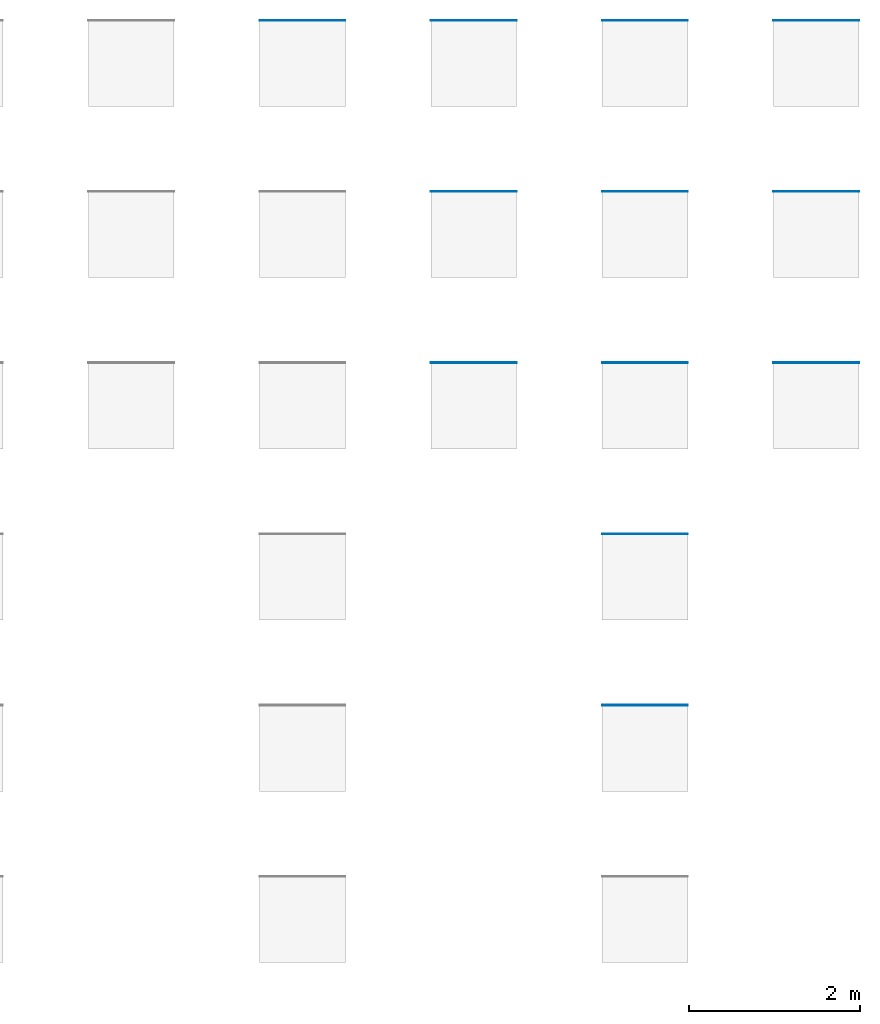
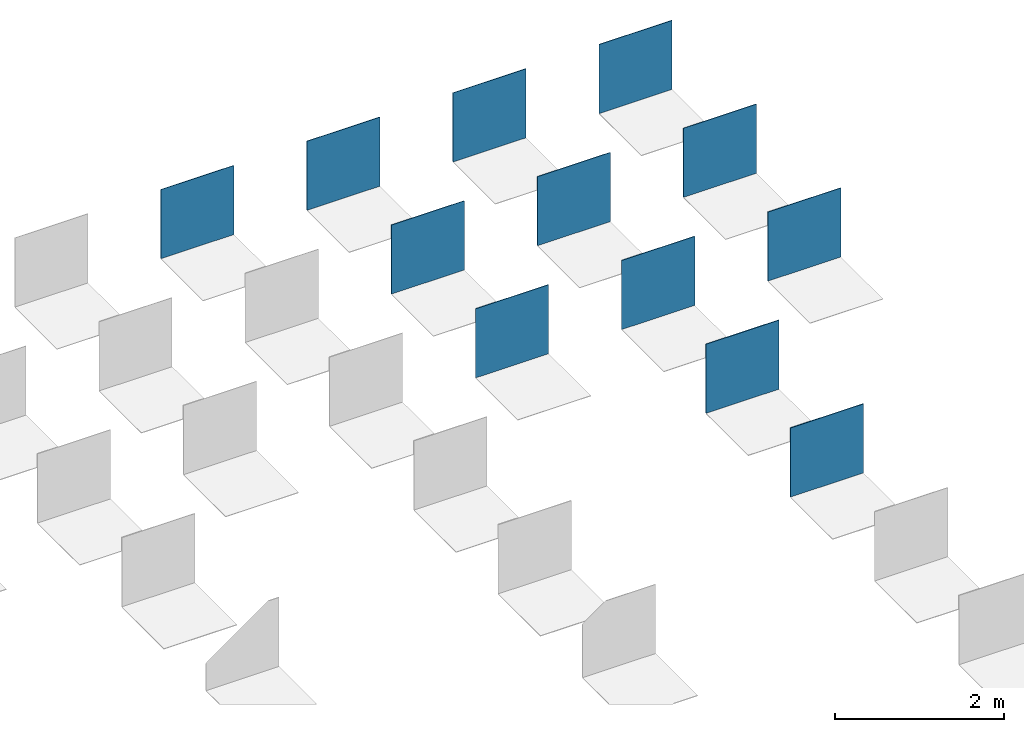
# One storey, part 3 of 6: 12 walls.
"""IFC2X3 building model written with IfcOpenShell, lengths in millimetres."""

from ifc_helpers import new_model, entity, si_unit, converted_unit, derived_unit, direction, frame, frame_2d, origin, place, context, subcontext, project, spatial, rectangle, extrude, material, layer, layer_set, layer_usage, type_object, element, save


model = new_model("IFC2X3")

# Units and contexts
model_context = context("Model", 3, precision=0.01, world=origin(), true_north=direction((6.12303176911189e-17, 1.0)))
body_context = subcontext(model_context, "Body", "Model", "MODEL_VIEW")
ifc_project = project(units=[si_unit("LENGTHUNIT", "METRE", prefix="MILLI"), si_unit("AREAUNIT", "SQUARE_METRE"), si_unit("VOLUMEUNIT", "CUBIC_METRE"), converted_unit("PLANEANGLEUNIT", "DEGREE", entity("IfcRatioMeasure", 0.0174532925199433), si_unit("PLANEANGLEUNIT", "RADIAN"), dimensions=[0, 0, 0, 0, 0, 0, 0]), si_unit("MASSUNIT", "GRAM", prefix="KILO"), derived_unit("MASSDENSITYUNIT", [(si_unit("MASSUNIT", "GRAM", prefix="KILO"), 1), (si_unit("LENGTHUNIT", "METRE"), -3)]), derived_unit("MOMENTOFINERTIAUNIT", [(si_unit("LENGTHUNIT", "METRE"), 4)]), si_unit("TIMEUNIT", "SECOND"), si_unit("FREQUENCYUNIT", "HERTZ"), si_unit("THERMODYNAMICTEMPERATUREUNIT", "DEGREE_CELSIUS"), derived_unit("THERMALTRANSMITTANCEUNIT", [(si_unit("MASSUNIT", "GRAM", prefix="KILO"), 1), (si_unit("THERMODYNAMICTEMPERATUREUNIT", "KELVIN"), -1), (si_unit("TIMEUNIT", "SECOND"), -3)]), derived_unit("VOLUMETRICFLOWRATEUNIT", [(si_unit("LENGTHUNIT", "METRE"), 3), (si_unit("TIMEUNIT", "SECOND"), -1)]), si_unit("ELECTRICCURRENTUNIT", "AMPERE"), si_unit("ELECTRICVOLTAGEUNIT", "VOLT"), si_unit("POWERUNIT", "WATT"), si_unit("FORCEUNIT", "NEWTON", prefix="KILO"), si_unit("ILLUMINANCEUNIT", "LUX"), si_unit("LUMINOUSFLUXUNIT", "LUMEN"), si_unit("LUMINOUSINTENSITYUNIT", "CANDELA"), derived_unit("USERDEFINED", [(si_unit("MASSUNIT", "GRAM", prefix="KILO"), -1), (si_unit("LENGTHUNIT", "METRE"), -2), (si_unit("TIMEUNIT", "SECOND"), 3), (si_unit("LUMINOUSFLUXUNIT", "LUMEN"), 1)]), derived_unit("LINEARVELOCITYUNIT", [(si_unit("LENGTHUNIT", "METRE"), 1), (si_unit("TIMEUNIT", "SECOND"), -1)]), si_unit("PRESSUREUNIT", "PASCAL"), derived_unit("USERDEFINED", [(si_unit("LENGTHUNIT", "METRE"), -2), (si_unit("MASSUNIT", "GRAM", prefix="KILO"), 1), (si_unit("TIMEUNIT", "SECOND"), -2)]), derived_unit("LINEARFORCEUNIT", [(si_unit("MASSUNIT", "GRAM", prefix="KILO"), 1), (si_unit("LENGTHUNIT", "METRE"), 1), (si_unit("TIMEUNIT", "SECOND"), -2), (si_unit("LENGTHUNIT", "METRE"), -1)]), derived_unit("PLANARFORCEUNIT", [(si_unit("MASSUNIT", "GRAM", prefix="KILO"), 1), (si_unit("LENGTHUNIT", "METRE"), 1), (si_unit("TIMEUNIT", "SECOND"), -2), (si_unit("LENGTHUNIT", "METRE"), -2)])], contexts=[model_context])

# Site, building, storey
site_placement = place(None, origin())
site = spatial("IfcSite", under=ifc_project, at=site_placement, Name="Default", CompositionType="ELEMENT")
building_placement = place(site_placement, origin())
building = spatial("IfcBuilding", under=site, at=building_placement, CompositionType="ELEMENT")
storey_placement = place(building_placement, origin())
storey = spatial("IfcBuildingStorey", under=building, at=storey_placement, Name="Level 1", CompositionType="ELEMENT", Elevation=0.0)

# Walls
ifc_material_1 = material(Name="REVIGRÉS-URBAN-BASE-30X30-RECT-GRIS")
ifc_layer_1 = layer(ifc_material_1, 7.7)
ifc_layer_set_1 = layer_set([ifc_layer_1], Name="Basic Wall:REVIGRÉS-URBAN-BASE-29,5X29,5-RECT-GRIS")
ifc_layer_usage_1 = layer_usage(ifc_layer_set_1, "AXIS2", "POSITIVE", -3.85)
wall_type_1 = type_object("IfcWallType", Name="Basic Wall:REVIGRÉS-URBAN-BASE-29,5X29,5-RECT-GRIS", PredefinedType="STANDARD", material=ifc_layer_set_1)
wall_1_placement = place(storey_placement, frame((18778.6427139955, -1188.07420263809, 0.0)))
element("IfcWallStandardCase", 1, at=wall_1_placement, inside=storey, type_object=wall_type_1, material=ifc_layer_usage_1, Name="Basic Wall:REVIGRÉS-URBAN-BASE-29,5X29,5-RECT-GRIS", ObjectType="Basic Wall:REVIGRÉS-URBAN-BASE-29,5X29,5-RECT-GRIS", context=body_context, shape_type="SweptSolid", body=[
    extrude(rectangle(XDim=1000.0, YDim=7.69999999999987, at=frame_2d((500.0, 0.0), x_axis=(-1.0, 0.0))), origin(), (0.0, 0.0, 1.0), 1000.0),
])
ifc_material_2 = material(Name="REVIGRÉS-URBAN-BASE-30X30-NAT-GRIS")
ifc_layer_2 = layer(ifc_material_2, 8.5)
ifc_layer_set_2 = layer_set([ifc_layer_2], Name="Basic Wall:REVIGRÉS-URBAN-BASE-30X30-NAT-GRIS")
ifc_layer_usage_2 = layer_usage(ifc_layer_set_2, "AXIS2", "POSITIVE", -4.25)
wall_type_2 = type_object("IfcWallType", Name="Basic Wall:REVIGRÉS-URBAN-BASE-30X30-NAT-GRIS", PredefinedType="STANDARD", material=ifc_layer_set_2)
wall_2_placement = place(storey_placement, frame((20778.6427139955, -1187.67420263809, 0.0)))
element("IfcWallStandardCase", 2, at=wall_2_placement, inside=storey, type_object=wall_type_2, material=ifc_layer_usage_2, Name="Basic Wall:REVIGRÉS-URBAN-BASE-30X30-NAT-GRIS", ObjectType="Basic Wall:REVIGRÉS-URBAN-BASE-30X30-NAT-GRIS", context=body_context, shape_type="SweptSolid", body=[
    extrude(rectangle(XDim=1000.0, YDim=8.49999999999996, at=frame_2d((500.000000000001, 0.0), x_axis=(-1.0, 0.0))), origin(), (0.0, 0.0, 1.0), 1000.0),
])
ifc_material_3 = material(Name="REVIGRÉS-URBAN-BASE-30X30-RECT-OFFWHITE")
ifc_layer_3 = layer(ifc_material_3, 7.7)
ifc_layer_set_3 = layer_set([ifc_layer_3], Name="Basic Wall:REVIGRÉS-URBAN-BASE-29,5X29,5-RECT-OFFWHITE")
ifc_layer_usage_3 = layer_usage(ifc_layer_set_3, "AXIS2", "POSITIVE", -3.85)
wall_type_3 = type_object("IfcWallType", Name="Basic Wall:REVIGRÉS-URBAN-BASE-29,5X29,5-RECT-OFFWHITE", PredefinedType="STANDARD", material=ifc_layer_set_3)
wall_3_placement = place(storey_placement, frame((22778.6427139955, -1188.07420263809, 0.0)))
element("IfcWallStandardCase", 3, at=wall_3_placement, inside=storey, type_object=wall_type_3, material=ifc_layer_usage_3, Name="Basic Wall:REVIGRÉS-URBAN-BASE-29,5X29,5-RECT-OFFWHITE", ObjectType="Basic Wall:REVIGRÉS-URBAN-BASE-29,5X29,5-RECT-OFFWHITE", context=body_context, shape_type="SweptSolid", body=[
    extrude(rectangle(XDim=1000.0, YDim=7.69999999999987, at=frame_2d((500.000000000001, 0.0), x_axis=(-1.0, 0.0))), origin(), (0.0, 0.0, 1.0), 1000.0),
])
ifc_material_4 = material(Name="REVIGRÉS-URBAN-BASE-30X60-RECT-OFFWHITE")
ifc_layer_4 = layer(ifc_material_4, 8.5)
ifc_layer_set_4 = layer_set([ifc_layer_4], Name="Basic Wall:REVIGRÉS-URBAN-BASE-29,5X59,2-RECT-OFFWHITE")
ifc_layer_usage_4 = layer_usage(ifc_layer_set_4, "AXIS2", "POSITIVE", -4.25)
wall_type_4 = type_object("IfcWallType", Name="Basic Wall:REVIGRÉS-URBAN-BASE-29,5X59,2-RECT-OFFWHITE", PredefinedType="STANDARD", material=ifc_layer_set_4)
wall_4_placement = place(storey_placement, frame((22778.6427139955, -3187.67420263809, 0.0)))
element("IfcWallStandardCase", 4, at=wall_4_placement, inside=storey, type_object=wall_type_4, material=ifc_layer_usage_4, Name="Basic Wall:REVIGRÉS-URBAN-BASE-29,5X59,2-RECT-OFFWHITE", ObjectType="Basic Wall:REVIGRÉS-URBAN-BASE-29,5X59,2-RECT-OFFWHITE", context=body_context, shape_type="SweptSolid", body=[
    extrude(rectangle(XDim=1000.0, YDim=8.50000000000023, at=frame_2d((500.000000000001, 0.0), x_axis=(-1.0, 0.0))), origin(), (0.0, 0.0, 1.0), 1000.0),
])
ifc_material_5 = material(Name="REVIGRÉS-URBAN-BASE-45X45-NAT-GRIS")
ifc_layer_5 = layer(ifc_material_5, 8.5)
ifc_layer_set_5 = layer_set([ifc_layer_5], Name="Basic Wall:REVIGRÉS-URBAN-BASE-45X45-NAT-GRIS")
ifc_layer_usage_5 = layer_usage(ifc_layer_set_5, "AXIS2", "POSITIVE", -4.25)
wall_type_5 = type_object("IfcWallType", Name="Basic Wall:REVIGRÉS-URBAN-BASE-45X45-NAT-GRIS", PredefinedType="STANDARD", material=ifc_layer_set_5)
wall_5_placement = place(storey_placement, frame((20778.6427139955, -5187.67420263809, 0.0)))
element("IfcWallStandardCase", 5, at=wall_5_placement, inside=storey, type_object=wall_type_5, material=ifc_layer_usage_5, Name="Basic Wall:REVIGRÉS-URBAN-BASE-45X45-NAT-GRIS", ObjectType="Basic Wall:REVIGRÉS-URBAN-BASE-45X45-NAT-GRIS", context=body_context, shape_type="SweptSolid", body=[
    extrude(rectangle(XDim=1000.0, YDim=8.50000000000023, at=frame_2d((500.000000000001, 0.0), x_axis=(-1.0, 0.0))), origin(), (0.0, 0.0, 1.0), 1000.0),
])
ifc_material_6 = material(Name="REVIGRÉS-URBAN-BASE-45X45-RECT-OFFWHITE")
ifc_layer_6 = layer(ifc_material_6, 8.5)
ifc_layer_set_6 = layer_set([ifc_layer_6], Name="Basic Wall:REVIGRÉS-URBAN-BASE-44,35X44,35-RECT-OFFWHITE")
ifc_layer_usage_6 = layer_usage(ifc_layer_set_6, "AXIS2", "POSITIVE", -4.25)
wall_type_6 = type_object("IfcWallType", Name="Basic Wall:REVIGRÉS-URBAN-BASE-44,35X44,35-RECT-OFFWHITE", PredefinedType="STANDARD", material=ifc_layer_set_6)
wall_6_placement = place(storey_placement, frame((22778.6427139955, -5187.67420263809, 0.0)))
element("IfcWallStandardCase", 6, at=wall_6_placement, inside=storey, type_object=wall_type_6, material=ifc_layer_usage_6, Name="Basic Wall:REVIGRÉS-URBAN-BASE-44,35X44,35-RECT-OFFWHITE", ObjectType="Basic Wall:REVIGRÉS-URBAN-BASE-44,35X44,35-RECT-OFFWHITE", context=body_context, shape_type="SweptSolid", body=[
    extrude(rectangle(XDim=1000.0, YDim=8.50000000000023, at=frame_2d((500.000000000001, 0.0), x_axis=(-1.0, 0.0))), origin(), (0.0, 0.0, 1.0), 1000.0),
])
ifc_material_7 = material(Name="REVIGRÉS-URBAN-BASE-45X90-RECT-OFFWHITE")
ifc_layer_7 = layer(ifc_material_7, 10.5)
ifc_layer_set_7 = layer_set([ifc_layer_7], Name="Basic Wall:REVIGRÉS-URBAN-BASE-44,35X88,9-RECT-OFFWHITE")
ifc_layer_usage_7 = layer_usage(ifc_layer_set_7, "AXIS2", "POSITIVE", -5.25)
wall_type_7 = type_object("IfcWallType", Name="Basic Wall:REVIGRÉS-URBAN-BASE-44,35X88,9-RECT-OFFWHITE", PredefinedType="STANDARD", material=ifc_layer_set_7)
wall_7_placement = place(storey_placement, frame((22778.6427139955, -7186.67420263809, 0.0)))
element("IfcWallStandardCase", 7, at=wall_7_placement, inside=storey, type_object=wall_type_7, material=ifc_layer_usage_7, Name="Basic Wall:REVIGRÉS-URBAN-BASE-44,35X88,9-RECT-OFFWHITE", ObjectType="Basic Wall:REVIGRÉS-URBAN-BASE-44,35X88,9-RECT-OFFWHITE", context=body_context, shape_type="SweptSolid", body=[
    extrude(rectangle(XDim=1000.0, YDim=10.4999999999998, at=frame_2d((500.000000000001, 0.0), x_axis=(-1.0, 0.0))), origin(), (0.0, 0.0, 1.0), 1000.0),
])
ifc_material_8 = material(Name="REVIGRÉS-URBAN-BASE-60X60-RECT-OFFWHITE")
ifc_layer_8 = layer(ifc_material_8, 10.5)
ifc_layer_set_8 = layer_set([ifc_layer_8], Name="Basic Wall:REVIGRÉS-URBAN-BASE-59,2X59,2-RECT-OFFWHITE")
ifc_layer_usage_8 = layer_usage(ifc_layer_set_8, "AXIS2", "POSITIVE", -5.25)
wall_type_8 = type_object("IfcWallType", Name="Basic Wall:REVIGRÉS-URBAN-BASE-59,2X59,2-RECT-OFFWHITE", PredefinedType="STANDARD", material=ifc_layer_set_8)
wall_8_placement = place(storey_placement, frame((22778.6427139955, -9186.67420263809, 0.0)))
element("IfcWallStandardCase", 8, at=wall_8_placement, inside=storey, type_object=wall_type_8, material=ifc_layer_usage_8, Name="Basic Wall:REVIGRÉS-URBAN-BASE-59,2X59,2-RECT-OFFWHITE", ObjectType="Basic Wall:REVIGRÉS-URBAN-BASE-59,2X59,2-RECT-OFFWHITE", context=body_context, shape_type="SweptSolid", body=[
    extrude(rectangle(XDim=1000.0, YDim=10.4999999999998, at=frame_2d((500.000000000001, 0.0), x_axis=(-1.0, 0.0))), origin(), (0.0, 0.0, 1.0), 1000.0),
])
ifc_material_9 = material(Name="REVIGRÉS-URBAN-BASE-30X30-NAT-OFFWHITE")
ifc_layer_9 = layer(ifc_material_9, 8.5)
ifc_layer_set_9 = layer_set([ifc_layer_9], Name="Basic Wall:REVIGRÉS-URBAN-BASE-30X30-NAT-OFFWHITE")
ifc_layer_usage_9 = layer_usage(ifc_layer_set_9, "AXIS2", "POSITIVE", -4.25)
wall_type_9 = type_object("IfcWallType", Name="Basic Wall:REVIGRÉS-URBAN-BASE-30X30-NAT-OFFWHITE", PredefinedType="STANDARD", material=ifc_layer_set_9)
wall_9_placement = place(storey_placement, frame((24778.6427139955, -1187.6742026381, 0.0)))
element("IfcWallStandardCase", 9, at=wall_9_placement, inside=storey, type_object=wall_type_9, material=ifc_layer_usage_9, Name="Basic Wall:REVIGRÉS-URBAN-BASE-30X30-NAT-OFFWHITE", ObjectType="Basic Wall:REVIGRÉS-URBAN-BASE-30X30-NAT-OFFWHITE", context=body_context, shape_type="SweptSolid", body=[
    extrude(rectangle(XDim=1000.0, YDim=8.49999999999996, at=frame_2d((500.000000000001, 0.0), x_axis=(-1.0, 0.0))), origin(), (0.0, 0.0, 1.0), 1000.0),
])
ifc_material_10 = material(Name="REVIGRÉS-URBAN-BASE-45X45-NAT-OFFWHITE")
ifc_layer_10 = layer(ifc_material_10, 8.5)
ifc_layer_set_10 = layer_set([ifc_layer_10], Name="Basic Wall:REVIGRÉS-URBAN-BASE-45X45-NAT-OFFWHITE")
ifc_layer_usage_10 = layer_usage(ifc_layer_set_10, "AXIS2", "POSITIVE", -4.25)
wall_type_10 = type_object("IfcWallType", Name="Basic Wall:REVIGRÉS-URBAN-BASE-45X45-NAT-OFFWHITE", PredefinedType="STANDARD", material=ifc_layer_set_10)
wall_10_placement = place(storey_placement, frame((24778.6427139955, -5187.6742026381, 0.0)))
element("IfcWallStandardCase", 10, at=wall_10_placement, inside=storey, type_object=wall_type_10, material=ifc_layer_usage_10, Name="Basic Wall:REVIGRÉS-URBAN-BASE-45X45-NAT-OFFWHITE", ObjectType="Basic Wall:REVIGRÉS-URBAN-BASE-45X45-NAT-OFFWHITE", context=body_context, shape_type="SweptSolid", body=[
    extrude(rectangle(XDim=1000.0, YDim=8.50000000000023, at=frame_2d((500.000000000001, 0.0), x_axis=(-1.0, 0.0))), origin(), (0.0, 0.0, 1.0), 1000.0),
])
ifc_material_11 = material(Name="REVIGRÉS-URBAN-BASE-30X60-NAT-GRIS")
ifc_layer_11 = layer(ifc_material_11, 8.5)
ifc_layer_set_11 = layer_set([ifc_layer_11], Name="Basic Wall:REVIGRÉS-URBAN-BASE-30X60-NAT-GRIS")
ifc_layer_usage_11 = layer_usage(ifc_layer_set_11, "AXIS2", "POSITIVE", -4.25)
wall_type_11 = type_object("IfcWallType", Name="Basic Wall:REVIGRÉS-URBAN-BASE-30X60-NAT-GRIS", PredefinedType="STANDARD", material=ifc_layer_set_11)
wall_11_placement = place(storey_placement, frame((20778.6427139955, -3187.6742026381, 0.0)))
element("IfcWallStandardCase", 11, at=wall_11_placement, inside=storey, type_object=wall_type_11, material=ifc_layer_usage_11, Name="Basic Wall:REVIGRÉS-URBAN-BASE-30X60-NAT-GRIS", ObjectType="Basic Wall:REVIGRÉS-URBAN-BASE-30X60-NAT-GRIS", context=body_context, shape_type="SweptSolid", body=[
    extrude(rectangle(XDim=1000.0, YDim=8.50000000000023, at=frame_2d((500.000000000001, 0.0), x_axis=(-1.0, 0.0))), origin(), (0.0, 0.0, 1.0), 1000.0),
])
ifc_material_12 = material(Name="REVIGRÉS-URBAN-BASE-30X60-NAT-OFFWHITE")
ifc_layer_12 = layer(ifc_material_12, 8.5)
ifc_layer_set_12 = layer_set([ifc_layer_12], Name="Basic Wall:REVIGRÉS-URBAN-BASE-30X60-NAT-OFFWHITE")
ifc_layer_usage_12 = layer_usage(ifc_layer_set_12, "AXIS2", "POSITIVE", -4.25)
wall_type_12 = type_object("IfcWallType", Name="Basic Wall:REVIGRÉS-URBAN-BASE-30X60-NAT-OFFWHITE", PredefinedType="STANDARD", material=ifc_layer_set_12)
wall_12_placement = place(storey_placement, frame((24778.6427139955, -3187.6742026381, 0.0)))
element("IfcWallStandardCase", 12, at=wall_12_placement, inside=storey, type_object=wall_type_12, material=ifc_layer_usage_12, Name="Basic Wall:REVIGRÉS-URBAN-BASE-30X60-NAT-OFFWHITE", ObjectType="Basic Wall:REVIGRÉS-URBAN-BASE-30X60-NAT-OFFWHITE", context=body_context, shape_type="SweptSolid", body=[
    extrude(rectangle(XDim=1000.0, YDim=8.50000000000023, at=frame_2d((500.000000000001, 0.0), x_axis=(-1.0, 0.0))), origin(), (0.0, 0.0, 1.0), 1000.0),
])

save(model, "model.ifc")
